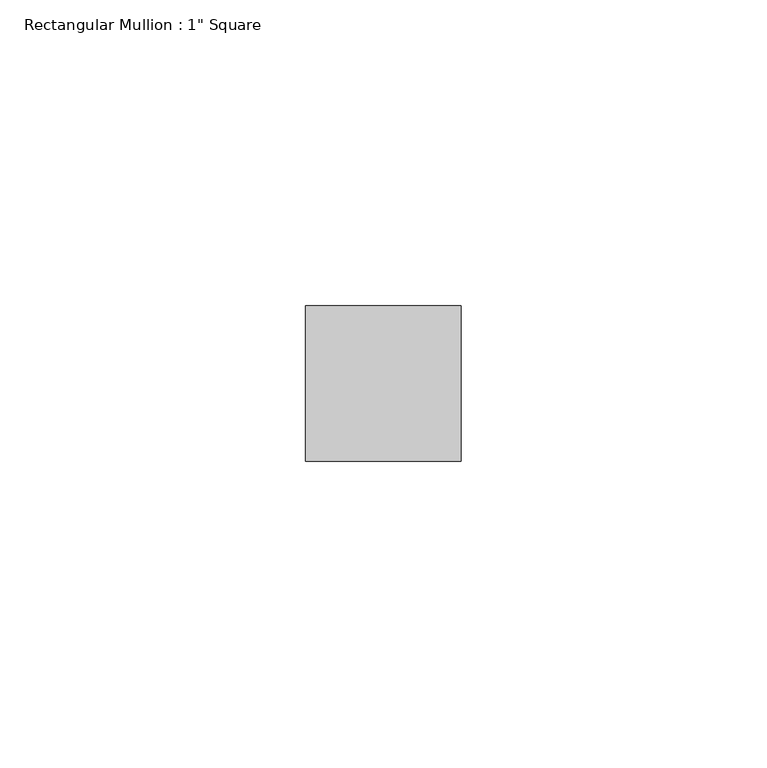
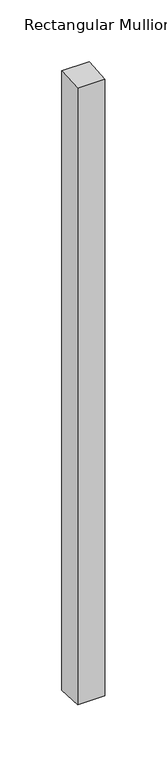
"""IFC4 building model written with IfcOpenShell, lengths in millimetres: member geometry."""

from ifc_helpers import new_model, si_unit, origin, place, context, project, spatial, faceted_brep, source, transform, mapped, element, save


def member_12ee2c91(model_context):
    return source(origin(), model_context, "Body", "Brep", [
        faceted_brep([(-25.4, 12.7, 0.687704), (0.0, 12.7, 0.7579283), (0.0, 12.7, -610.3579283), (-25.4, 12.7, -610.287704), (-25.4, -12.7, -0.8281526), (-25.4, -12.7, -608.7718474), (0.0, -12.7, -0.7579283), (0.0, -12.7, -608.8420717)], [[[0, 1, 2, 3]], [[4, 0, 3, 5]], [[6, 4, 5, 7]], [[1, 6, 7, 2]], [[1, 0, 4, 6]], [[2, 7, 5, 3]]]),
    ])


if __name__ == "__main__":
    model = new_model("IFC4")
    model_context = context("Model", 3, world=origin())
    ifc_project = project(units=[si_unit("LENGTHUNIT", "METRE", prefix="MILLI")], contexts=[model_context])
    site = spatial("IfcSite", under=ifc_project)
    building = spatial("IfcBuilding", under=site)
    placement = place(None, origin())
    member_shape = member_12ee2c91(model_context)
    element("IfcMember", 1, ObjectType="Rectangular Mullion : 1\" Square", at=placement, inside=building, context=model_context, shape_type="MappedRepresentation", body=[
        mapped(member_shape, transform((0.0, 0.0, 0.0), x_axis=(1.0, 0.0, 0.0), y_axis=(0.0, 1.0, 0.0), z_axis=(0.0, 0.0, 1.0))),
    ])
    save(model, "model.ifc")
